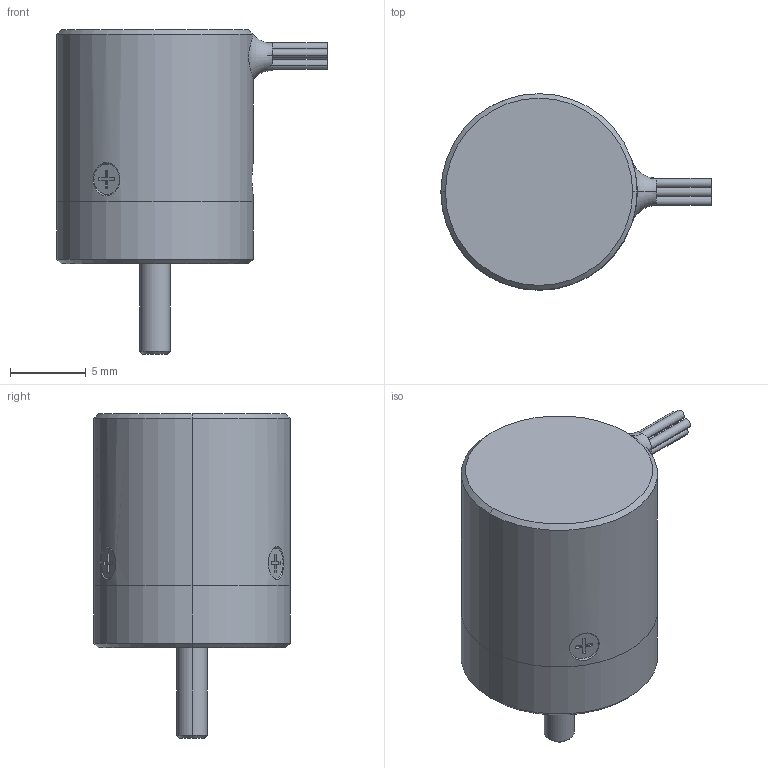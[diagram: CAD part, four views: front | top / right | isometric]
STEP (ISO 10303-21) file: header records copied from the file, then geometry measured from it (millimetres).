
FILE_DESCRIPTION(('STEP AP203'),'1');
FILE_NAME('//192.168.0.150/share/技術部/WS01-machida/機種一覧/小型磁気式/量産用/MMS-10外観データ(横出).step','2017-04-18T01:34:40',(' '),(' '),'Spatial InterOp 3D',' ',' ');
FILE_SCHEMA(('CONFIG_CONTROL_DESIGN'));
Length unit declared in the file: millimetre
Products named in the file (15): 1; 2; 3; 4; 5; 6; 7; 8; 9; 10; 11; 12; 13; 14; 15
Bounding box: 17.9 x 13 x 21.5 mm (x, y, z)
Volume: 962.4 mm3; surface area: 2320.4 mm2
Topology: 14 solids, 14 shells, 182 faces, 428 edges, 274 vertices
Faces by surface type: cylinder 72, plane 72, cone 36, torus 2
Entity records: 6336 total; most frequent: CARTESIAN_POINT 1472, DIRECTION 917, ORIENTED_EDGE 828, EDGE_CURVE 414, AXIS2_PLACEMENT_3D 347, VERTEX_POINT 268, LINE 223, VECTOR 223
